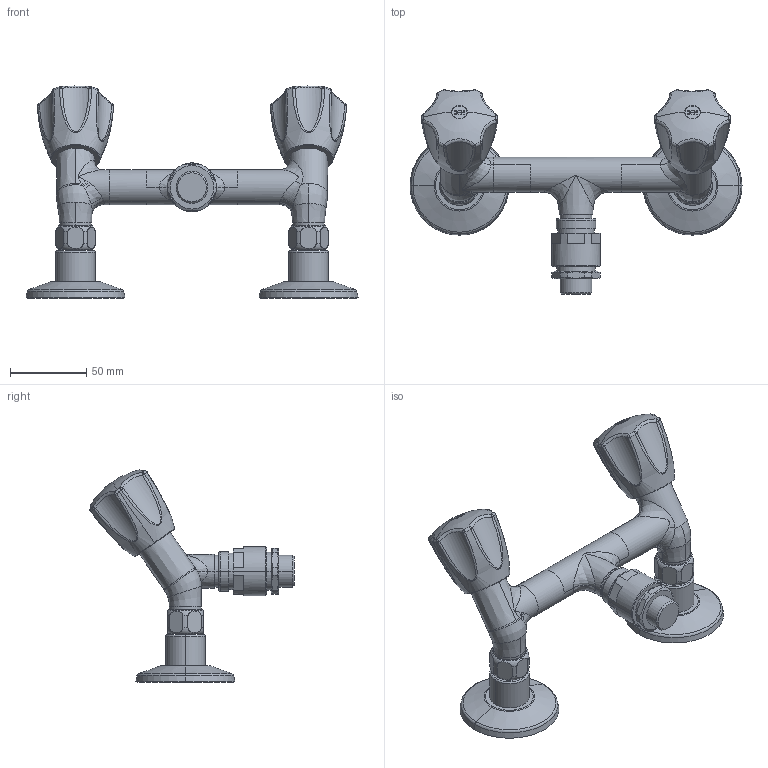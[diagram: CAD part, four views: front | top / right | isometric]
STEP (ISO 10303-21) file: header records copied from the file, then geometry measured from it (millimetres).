
FILE_DESCRIPTION((''),'2;1');
FILE_NAME('K_24_42_00_000C76','2012-01-04T',('HEF'),(''),'PRO/ENGINEER BY PARAMETRIC TECHNOLOGY CORPORATION, 2011080','PRO/ENGINEER BY PARAMETRIC TECHNOLOGY CORPORATION, 2011080','');
FILE_SCHEMA(('AUTOMOTIVE_DESIGN_CC2 { 1 2 10303 214 -1 1 5 2 }'));
Length unit declared in the file: millimetre
Products named in the file (1): K_24_42_00_000C76
Bounding box: 218 x 134.06 x 139.21 mm (x, y, z)
Volume: 355133.9 mm3; surface area: 61194.6 mm2
Topology: 3 solids, 3 shells, 348 faces, 826 edges, 502 vertices
Faces by surface type: plane 115, bspline 69, cylinder 56, torus 52, sphere 28, cone 24, extrusion 4
Entity records: 23739 total; most frequent: CARTESIAN_POINT 12688, ORIENTED_EDGE 1652, DIRECTION 1540, EDGE_CURVE 826, AXIS2_PLACEMENT_3D 618, FILL_AREA_STYLE_COLOUR 531, FILL_AREA_STYLE 531, SURFACE_STYLE_FILL_AREA 531
